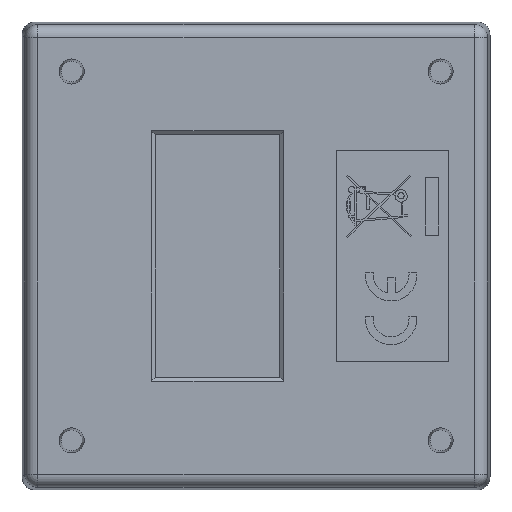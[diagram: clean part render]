
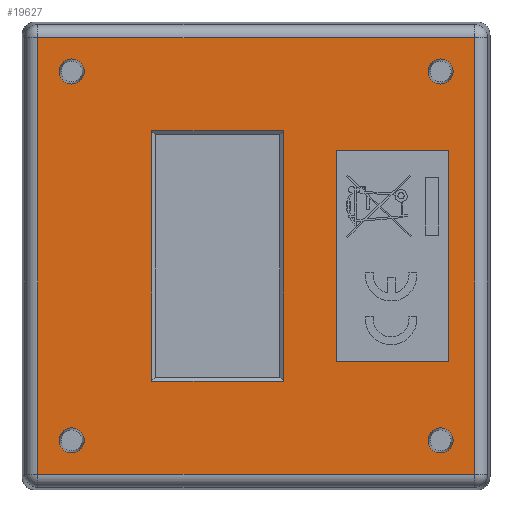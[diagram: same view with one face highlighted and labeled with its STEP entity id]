
A CAD part, front view. The second image highlights one B-rep face of the part: STEP entity #19627.
In plain terms, the highlighted planar face has unit normal (0, -1, 0) as drawn and (0, 0, -1) by its records, which use the part's own axes.
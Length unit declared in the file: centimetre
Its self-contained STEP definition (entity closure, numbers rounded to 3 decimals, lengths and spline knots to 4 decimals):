
#4118=PLANE('',#20509);
#4949=VECTOR('',#22151,1.);
#4952=VECTOR('',#22155,1.);
#4955=VECTOR('',#22159,1.);
#4958=VECTOR('',#22163,1.);
#5088=VECTOR('',#22357,1.);
#5091=VECTOR('',#22361,1.);
#5094=VECTOR('',#22365,1.);
#5097=VECTOR('',#22369,1.);
#5258=VECTOR('',#22602,1.);
#5259=VECTOR('',#22603,1.);
#5260=VECTOR('',#22604,1.);
#5261=VECTOR('',#22605,1.);
#6787=LINE('',#26317,#4949);
#6790=LINE('',#26323,#4952);
#6793=LINE('',#26329,#4955);
#6796=LINE('',#26334,#4958);
#6926=LINE('',#26677,#5088);
#6929=LINE('',#26683,#5091);
#6932=LINE('',#26689,#5094);
#6935=LINE('',#26694,#5097);
#7096=LINE('',#27769,#5258);
#7097=LINE('',#27772,#5259);
#7098=LINE('',#27774,#5260);
#7099=LINE('',#27776,#5261);
#8543=VERTEX_POINT('',#26316);
#8544=VERTEX_POINT('',#26318);
#8546=VERTEX_POINT('',#26324);
#8548=VERTEX_POINT('',#26330);
#8643=VERTEX_POINT('',#26676);
#8644=VERTEX_POINT('',#26678);
#8646=VERTEX_POINT('',#26684);
#8648=VERTEX_POINT('',#26690);
#8769=VERTEX_POINT('',#27762);
#8770=VERTEX_POINT('',#27764);
#8771=VERTEX_POINT('',#27766);
#8772=VERTEX_POINT('',#27768);
#8773=VERTEX_POINT('',#27770);
#8774=VERTEX_POINT('',#27771);
#8775=VERTEX_POINT('',#27773);
#8776=VERTEX_POINT('',#27775);
#9787=CIRCLE('',#20510,0.1209);
#9788=CIRCLE('',#20511,0.1209);
#9789=CIRCLE('',#20512,0.1209);
#9790=CIRCLE('',#20513,0.1209);
#10618=EDGE_CURVE('',#8544,#8543,#6787,.T.);
#10621=EDGE_CURVE('',#8546,#8544,#6790,.T.);
#10624=EDGE_CURVE('',#8548,#8546,#6793,.T.);
#10627=EDGE_CURVE('',#8543,#8548,#6796,.T.);
#10767=EDGE_CURVE('',#8644,#8643,#6926,.F.);
#10770=EDGE_CURVE('',#8646,#8644,#6929,.F.);
#10773=EDGE_CURVE('',#8648,#8646,#6932,.F.);
#10776=EDGE_CURVE('',#8643,#8648,#6935,.F.);
#10957=EDGE_CURVE('',#8769,#8769,#9787,.F.);
#10958=EDGE_CURVE('',#8770,#8770,#9788,.F.);
#10959=EDGE_CURVE('',#8771,#8771,#9789,.F.);
#10960=EDGE_CURVE('',#8772,#8772,#9790,.F.);
#10961=EDGE_CURVE('',#8773,#8774,#7096,.T.);
#10962=EDGE_CURVE('',#8775,#8773,#7097,.T.);
#10963=EDGE_CURVE('',#8776,#8775,#7098,.T.);
#10964=EDGE_CURVE('',#8774,#8776,#7099,.T.);
#14234=ORIENTED_EDGE('',*,*,#10618,.T.);
#14235=ORIENTED_EDGE('',*,*,#10627,.T.);
#14236=ORIENTED_EDGE('',*,*,#10624,.T.);
#14237=ORIENTED_EDGE('',*,*,#10621,.T.);
#14238=ORIENTED_EDGE('',*,*,#10957,.T.);
#14239=ORIENTED_EDGE('',*,*,#10958,.T.);
#14240=ORIENTED_EDGE('',*,*,#10959,.T.);
#14241=ORIENTED_EDGE('',*,*,#10960,.T.);
#14242=ORIENTED_EDGE('',*,*,#10961,.F.);
#14243=ORIENTED_EDGE('',*,*,#10962,.F.);
#14244=ORIENTED_EDGE('',*,*,#10963,.F.);
#14245=ORIENTED_EDGE('',*,*,#10964,.F.);
#14246=ORIENTED_EDGE('',*,*,#10767,.T.);
#14247=ORIENTED_EDGE('',*,*,#10776,.T.);
#14248=ORIENTED_EDGE('',*,*,#10773,.T.);
#14249=ORIENTED_EDGE('',*,*,#10770,.T.);
#17616=EDGE_LOOP('',(#14234,#14235,#14236,#14237));
#17617=EDGE_LOOP('',(#14238));
#17618=EDGE_LOOP('',(#14239));
#17619=EDGE_LOOP('',(#14240));
#17620=EDGE_LOOP('',(#14241));
#17621=EDGE_LOOP('',(#14242,#14243,#14244,#14245));
#17622=EDGE_LOOP('',(#14246,#14247,#14248,#14249));
#18633=FACE_BOUND('',#17616,.T.);
#18634=FACE_BOUND('',#17617,.T.);
#18635=FACE_BOUND('',#17618,.T.);
#18636=FACE_BOUND('',#17619,.T.);
#18637=FACE_BOUND('',#17620,.T.);
#18638=FACE_BOUND('',#17621,.T.);
#18639=FACE_BOUND('',#17622,.T.);
#19627=ADVANCED_FACE('',(#18633,#18634,#18635,#18636,#18637,#18638,#18639),
#4118,.F.);
#20509=AXIS2_PLACEMENT_3D('',#27760,#22593,$);
#20510=AXIS2_PLACEMENT_3D('',#27761,#22594,#22595);
#20511=AXIS2_PLACEMENT_3D('',#27763,#22596,#22597);
#20512=AXIS2_PLACEMENT_3D('',#27765,#22598,#22599);
#20513=AXIS2_PLACEMENT_3D('',#27767,#22600,#22601);
#22151=DIRECTION('',(1.,0.,0.));
#22155=DIRECTION('',(0.,-1.,0.));
#22159=DIRECTION('',(-1.,0.,0.));
#22163=DIRECTION('',(0.,1.,0.));
#22357=DIRECTION('',(-1.,0.,0.));
#22361=DIRECTION('',(0.,1.,0.));
#22365=DIRECTION('',(1.,0.,0.));
#22369=DIRECTION('',(0.,-1.,0.));
#22593=DIRECTION('',(0.,0.,1.));
#22594=DIRECTION('',(0.,0.,-1.));
#22595=DIRECTION('',(-0.121,0.,0.));
#22596=DIRECTION('',(0.,0.,-1.));
#22597=DIRECTION('',(-0.121,0.,0.));
#22598=DIRECTION('',(0.,0.,-1.));
#22599=DIRECTION('',(-0.121,0.,0.));
#22600=DIRECTION('',(0.,0.,-1.));
#22601=DIRECTION('',(-0.121,0.,0.));
#22602=DIRECTION('',(-1.,0.,0.));
#22603=DIRECTION('',(0.,1.,0.));
#22604=DIRECTION('',(1.,0.,0.));
#22605=DIRECTION('',(0.,-1.,0.));
#26316=CARTESIAN_POINT('',(1.2065,-0.2639,-0.0032));
#26317=CARTESIAN_POINT('',(0.6033,-0.2639,-0.0032));
#26318=CARTESIAN_POINT('',(-1.2065,-0.2639,-0.0032));
#26323=CARTESIAN_POINT('',(-1.2065,-0.1319,-0.0032));
#26324=CARTESIAN_POINT('',(-1.2065,1.0061,-0.0032));
#26329=CARTESIAN_POINT('',(-0.6032,1.0061,-0.0032));
#26330=CARTESIAN_POINT('',(1.2065,1.0061,-0.0032));
#26334=CARTESIAN_POINT('',(1.2065,0.5031,-0.0032));
#26676=CARTESIAN_POINT('',(1.0178,-1.8531,-0.0032));
#26677=CARTESIAN_POINT('',(0.,-1.8531,-0.0032));
#26678=CARTESIAN_POINT('',(-1.0178,-1.8531,-0.0032));
#26683=CARTESIAN_POINT('',(-1.0178,-0.3279,-0.0032));
#26684=CARTESIAN_POINT('',(-1.0178,-0.7701,-0.0032));
#26689=CARTESIAN_POINT('',(0.,-0.7701,-0.0032));
#26690=CARTESIAN_POINT('',(1.0178,-0.7701,-0.0032));
#26694=CARTESIAN_POINT('',(1.0178,-0.3279,-0.0032));
#27760=CARTESIAN_POINT('',(0.,0.,-0.0032));
#27761=CARTESIAN_POINT('',(1.778,1.778,-0.0032));
#27762=CARTESIAN_POINT('',(1.8989,1.778,-0.0032));
#27763=CARTESIAN_POINT('',(1.778,-1.778,-0.0032));
#27764=CARTESIAN_POINT('',(1.8989,-1.778,-0.0032));
#27765=CARTESIAN_POINT('',(-1.778,-1.778,-0.0032));
#27766=CARTESIAN_POINT('',(-1.6571,-1.778,-0.0032));
#27767=CARTESIAN_POINT('',(-1.778,1.778,-0.0032));
#27768=CARTESIAN_POINT('',(-1.6571,1.778,-0.0032));
#27769=CARTESIAN_POINT('',(0.,2.1054,-0.0032));
#27770=CARTESIAN_POINT('',(2.1054,2.1054,-0.0032));
#27771=CARTESIAN_POINT('',(-2.1054,2.1054,-0.0032));
#27772=CARTESIAN_POINT('',(2.1054,0.,-0.0032));
#27773=CARTESIAN_POINT('',(2.1054,-2.1054,-0.0032));
#27774=CARTESIAN_POINT('',(0.,-2.1054,-0.0032));
#27775=CARTESIAN_POINT('',(-2.1054,-2.1054,-0.0032));
#27776=CARTESIAN_POINT('',(-2.1054,0.,-0.0032));
